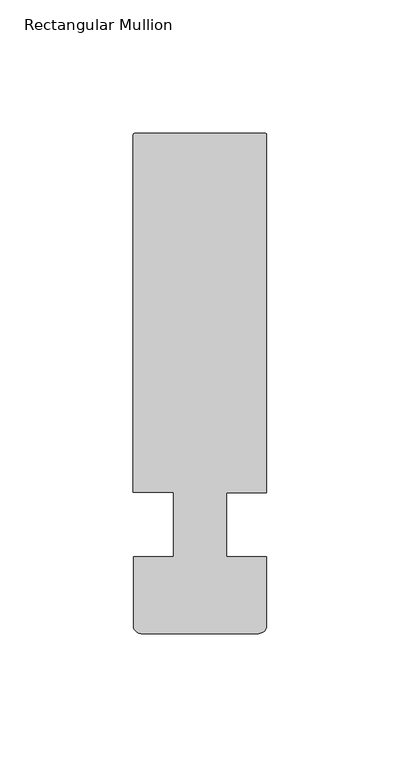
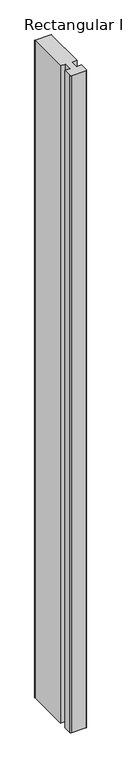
"""IFC4 building model written with IfcOpenShell, lengths in millimetres: member geometry, Rectangular Mullion : Reynaers verticaal."""

from ifc_helpers import new_model, si_unit, point, frame, frame_2d, origin, place, context, project, spatial, polyline, circle_curve, trimmed, segment, composite_curve, outline, extrude, source, transform, mapped, element, save


def rectangular_mullion_e95b822f(model_context):
    return source(origin(), model_context, "Body", "SweptSolid", [
        extrude(outline(composite_curve([segment(polyline([(-49.9879, -38.1094527), (-49.9879, -12.0), (-35.0, -12.0), (-35.0, 12.0), (-50.0, 12.0), (-50.0, 145.9999884)]), True, "CONTINUOUS"), segment(trimmed(circle_curve(frame_2d((-49.4999884, 145.9999884)), 0.5000116), [point((-50.0, 145.9999884))], [point((-49.4999884, 146.5))], False, "CARTESIAN"), True, "CONTINUOUS"), segment(polyline([(-49.4999884, 146.5), (-0.5000116, 146.5)]), True, "CONTINUOUS"), segment(trimmed(circle_curve(frame_2d((-0.5000116, 145.9999884)), 0.5000116), [point((-0.5000116, 146.5))], [point((0.0, 145.9999884))], False, "CARTESIAN"), True, "CONTINUOUS"), segment(polyline([(0.0, 145.9999884), (0.0, 11.9989825), (-15.0, 11.9989825), (-15.0, -12.0010175), (-0.0001, -12.0010175), (-0.0001, -37.841972)]), True, "CONTINUOUS"), segment(trimmed(circle_curve(frame_2d((-3.0001012, -37.841972)), 3.0000012), [point((-0.0001, -37.841972))], [point((-3.0001012, -40.8419732))], False, "CARTESIAN"), True, "CONTINUOUS"), segment(polyline([(-3.0001012, -40.8419732), (-47.0003621, -40.8419732)]), True, "CONTINUOUS"), segment(trimmed(circle_curve(frame_2d((-47.0003621, -37.8425353)), 2.9994379), [point((-47.0003621, -40.8419732))], [point((-49.9879, -38.1094527))], False, "CARTESIAN"), True, "CONTINUOUS")], self_intersect=False)), frame((0.0, 0.0, -2099.5), z_axis=(0.0, 0.0, 1.0), x_axis=(1.0, 0.0, 0.0)), (0.0, 0.0, 1.0), 2099.5),
    ])


if __name__ == "__main__":
    model = new_model("IFC4")
    model_context = context("Model", 3, world=origin())
    ifc_project = project(units=[si_unit("LENGTHUNIT", "METRE", prefix="MILLI")], contexts=[model_context])
    site = spatial("IfcSite", under=ifc_project)
    building = spatial("IfcBuilding", under=site)
    placement = place(None, origin())
    rectangular_mullion_shape = rectangular_mullion_e95b822f(model_context)
    element("IfcMember", 1, ObjectType="Rectangular Mullion : Reynaers verticaal", at=placement, inside=building, context=model_context, shape_type="MappedRepresentation", body=[
        mapped(rectangular_mullion_shape, transform((0.0, 0.0, 0.0), x_axis=(1.0, 0.0, 0.0), y_axis=(0.0, 1.0, 0.0), z_axis=(0.0, 0.0, 1.0))),
    ])
    save(model, "model.ifc")
